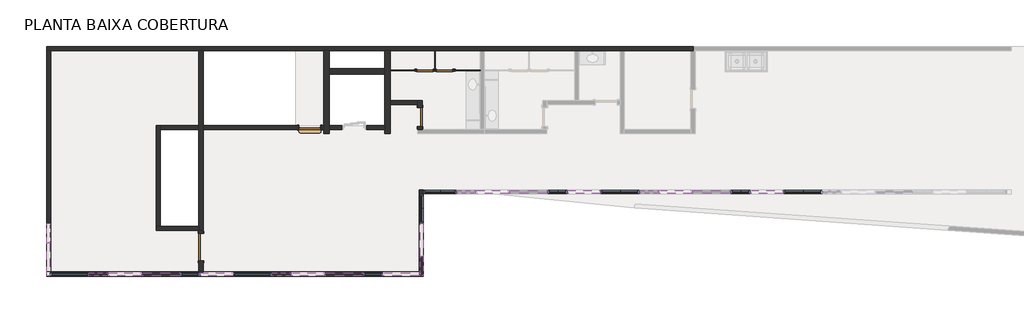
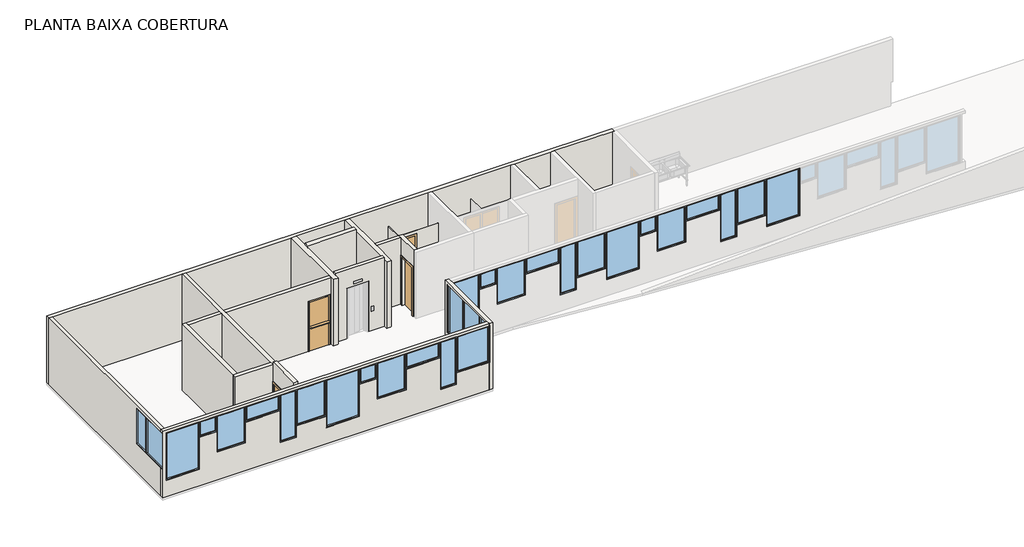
# One storey, part 1 of 3: 30 windows, 18 walls, 5 doors.
"""IFC4 building model written with IfcOpenShell, lengths in millimetres."""

from ifc_helpers import new_model, si_unit, frame, origin, place, context, project, spatial, polyline, outline, extrude, faceted_brep, transform, mapped, element, save
from components import door_1000_x_2100_mm_77822ca1, door_700_x_2100_mm_1d7fae46, door_80_x_210_cm_e9c14bc5, porta_de_banheiro_c374852d, porta_de_banheiro_1c1a7de0, aluminum_exterior_window_2_wide_3886_0_70_x_0_70m_bfecb7e2, aluminum_exterior_window_2_wide_3886_0_70_x_1_60m_6a6ee500, aluminum_exterior_window_2_wide_3886_0_70_x_2_10m_7c316bb6, aluminum_exterior_window_2_wide_3886_1_06_x_2_10m_65eb9463, aluminum_exterior_window_2_wide_3886_1_20_x_1_60m_92f5631a, aluminum_exterior_window_2_wide_3886_1_20_x_2_10m_6cf60a3e, aluminum_exterior_window_2_wide_3886_1_35_x_1_60m_f8f21254, aluminum_exterior_window_2_wide_3886_1_40_x_0_70m_1044a296, aluminum_exterior_window_2_wide_3886_1_40_x_2_10_m_fd60d73d

model = new_model("IFC4")

# Units and contexts
model_context = context("Model", 3, world=origin())
ifc_project = project(units=[si_unit("LENGTHUNIT", "METRE", prefix="MILLI")], contexts=[model_context])

# Site, building, storey
site = spatial("IfcSite", under=ifc_project)
building = spatial("IfcBuilding", under=site)
storey = spatial("IfcBuildingStorey", under=building, Name="PLANTA BAIXA COBERTURA", Elevation=7200.0)

# Doors
placement = place(None, origin())
door_1000_x_2100_mm_shape = door_1000_x_2100_mm_77822ca1(model_context)
element("IfcDoor", 1, ObjectType="M_Folha única : 1000 x 2100 mm", at=placement, inside=storey, context=model_context, shape_type="MappedRepresentation", body=[
    mapped(door_1000_x_2100_mm_shape, transform((-8979.6326345, -9991.1116245, 7200.0), x_axis=(0.0, 1.0, 0.0), y_axis=(-1.0, 0.0, 0.0), z_axis=(0.0, 0.0, 1.0))),
])
door_700_x_2100_mm_shape = door_700_x_2100_mm_1d7fae46(model_context)
element("IfcDoor", 2, ObjectType="M_Folha única : 700 x 2100 mm", at=placement, inside=storey, context=model_context, shape_type="MappedRepresentation", body=[
    mapped(door_700_x_2100_mm_shape, transform((-1079.6326345, -5291.1116245, 7200.0), x_axis=(0.0, -1.0, 0.0), y_axis=(1.0, 0.0, 0.0), z_axis=(0.0, 0.0, 1.0))),
])
door_80_x_210_cm_shape = door_80_x_210_cm_e9c14bc5(model_context)
element("IfcDoor", 3, ObjectType="Dutch_door_-_2_stacked_leaves_2298 : 80 x 210 cm", at=placement, inside=storey, context=model_context, shape_type="MappedRepresentation", body=[
    mapped(door_80_x_210_cm_shape, transform((-5054.6326345, -5666.1116245, 7200.0), x_axis=(1.0, 0.0, 0.0), y_axis=(0.0, 1.0, 0.0), z_axis=(0.0, 0.0, 1.0))),
])
porta_de_banheiro_shape = porta_de_banheiro_c374852d(model_context)
element("IfcDoor", 4, ObjectType="M_Folha única : Porta de Banheiro", at=placement, inside=storey, context=model_context, shape_type="MappedRepresentation", body=[
    mapped(porta_de_banheiro_shape, transform((-894.6326345, -3603.6116245, 7200.0), x_axis=(1.0, 0.0, 0.0), y_axis=(0.0, 1.0, 0.0), z_axis=(0.0, 0.0, 1.0))),
])
porta_de_banheiro_2_shape = porta_de_banheiro_1c1a7de0(model_context)
element("IfcDoor", 5, ObjectType="M_Folha única : Porta de Banheiro", at=placement, inside=storey, context=model_context, shape_type="MappedRepresentation", body=[
    mapped(porta_de_banheiro_2_shape, transform((-189.6326345, -3603.6116245, 7200.0), x_axis=(-1.0, 0.0, 0.0), y_axis=(0.0, -1.0, 0.0), z_axis=(0.0, 0.0, 1.0))),
])

# Walls
element("IfcWall", 6, ObjectType="Genérica - 15cm", at=placement, inside=storey, context=model_context, shape_type="Brep", body=[
    faceted_brep([(-14554.6326345, -2891.1116245, 7200.0), (-14404.6326345, -2891.1116245, 7200.0), (-9054.6326345, -2891.1116245, 7200.0), (-8904.6326345, -2891.1116245, 7200.0), (-4554.6326345, -2891.1116245, 7200.0), (-4354.6326345, -2891.1116245, 7200.0), (-2354.6326345, -2891.1116245, 7200.0), (-2154.6326345, -2891.1116245, 7200.0), (1095.3673655, -2891.1116245, 7200.0), (1245.3673655, -2891.1116245, 7200.0), (4495.3673655, -2891.1116245, 7200.0), (4645.3673655, -2891.1116245, 7200.0), (6145.3673655, -2891.1116245, 7200.0), (6295.3673655, -2891.1116245, 7200.0), (8695.3673655, -2891.1116245, 7200.0), (8770.3673655, -2891.1116245, 7200.0), (8770.3673655, -2891.1116245, 10100.0), (8695.3673655, -2891.1116245, 10100.0), (6295.3673655, -2891.1116245, 10100.0), (6145.3673655, -2891.1116245, 10100.0), (4645.3673655, -2891.1116245, 10100.0), (4495.3673655, -2891.1116245, 10100.0), (1245.3673655, -2891.1116245, 10100.0), (1095.3673655, -2891.1116245, 10100.0), (-2154.6326345, -2891.1116245, 10100.0), (-2354.6326345, -2891.1116245, 10100.0), (-4354.6326345, -2891.1116245, 10100.0), (-4554.6326345, -2891.1116245, 10100.0), (-8904.6326345, -2891.1116245, 10100.0), (-9054.6326345, -2891.1116245, 10100.0), (-14404.6326345, -2891.1116245, 10100.0), (-14554.6326345, -2891.1116245, 10100.0), (-14554.6326345, -2741.1116245, 7200.0), (-14554.6326345, -2741.1116245, 10100.0), (8770.3673655, -2741.1116245, 10100.0), (8770.3673655, -2741.1116245, 7200.0)], [[[0, 1, 2, 3, 4, 5, 6, 7, 8, 9, 10, 11, 12, 13, 14, 15, 16, 17, 18, 19, 20, 21, 22, 23, 24, 25, 26, 27, 28, 29, 30, 31]], [[32, 33, 34, 35]], [[15, 14, 13, 12, 11, 10, 9, 8, 7, 6, 5, 4, 3, 2, 1, 0, 32, 35]], [[16, 15, 35, 34]], [[0, 31, 33, 32]], [[31, 30, 29, 28, 27, 26, 25, 24, 23, 22, 21, 20, 19, 18, 17, 16, 34, 33]]]),
])
element("IfcWall", 7, ObjectType="Genérica - 15cm", at=placement, inside=storey, context=model_context, shape_type="Brep", body=[
    faceted_brep([(-1104.6326345, -7921.1116245, 7200.0), (-1104.6326345, -10891.1116245, 7200.0), (-1104.6326345, -11041.1116245, 7200.0), (-1104.6326345, -11041.1116245, 8400.0), (-1104.6326345, -10891.1116245, 8400.0), (-1104.6326345, -10891.1116245, 9300.0), (-1104.6326345, -10331.1116245, 9300.0), (-1104.6326345, -10331.1116245, 8400.0), (-1104.6326345, -9131.1116245, 8400.0), (-1104.6326345, -9131.1116245, 7900.0), (-1104.6326345, -8071.1116245, 7900.0), (-1104.6326345, -8071.1116245, 10000.0), (-1104.6326345, -10891.1116245, 10000.0), (-1104.6326345, -11041.1116245, 10000.0), (-1104.6326345, -11041.1116245, 10100.0), (-1104.6326345, -10891.1116245, 10100.0), (-1104.6326345, -7921.1116245, 10100.0), (-954.6326345, -11041.1116245, 7200.0), (-954.6326345, -8071.1116245, 7200.0), (-954.6326345, -7921.1116245, 7200.0), (-954.6326345, -7921.1116245, 7900.0), (-954.6326345, -8071.1116245, 7900.0), (-954.6326345, -9131.1116245, 7900.0), (-954.6326345, -9131.1116245, 8400.0), (-954.6326345, -10331.1116245, 8400.0), (-954.6326345, -10331.1116245, 9300.0), (-954.6326345, -11031.1116245, 9300.0), (-954.6326345, -11031.1116245, 10000.0), (-954.6326345, -8071.1116245, 10000.0), (-954.6326345, -7921.1116245, 10000.0), (-954.6326345, -7921.1116245, 10100.0), (-954.6326345, -8071.1116245, 10100.0), (-954.6326345, -11041.1116245, 10100.0), (-1074.6326345, -11041.1116245, 10000.0), (-1074.6326345, -11041.1116245, 8400.0), (-964.9326345, -7921.1116245, 10000.0), (-964.9326345, -7921.1116245, 7900.0), (-1074.6326345, -10891.1116245, 9300.0), (-1074.6326345, -11031.1116245, 9300.0), (-1074.6326345, -11031.1116245, 10000.0), (-964.9326345, -8071.1116245, 10000.0), (-964.9326345, -8071.1116245, 7900.0), (-1074.6326345, -10891.1116245, 8400.0)], [[[0, 1, 2, 3, 4, 5, 6, 7, 8, 9, 10, 11, 12, 13, 14, 15, 16]], [[17, 18, 19, 20, 21, 22, 23, 24, 25, 26, 27, 28, 29, 30, 31, 32]], [[2, 1, 0, 19, 18, 17]], [[2, 17, 32, 14, 13, 33, 34, 3]], [[0, 16, 30, 29, 35, 36, 20, 19]], [[16, 15, 14, 32, 31, 30]], [[26, 25, 6, 5, 37, 38]], [[27, 26, 38, 39]], [[27, 39, 33, 13, 12, 11, 40, 35, 29, 28]], [[7, 24, 23, 8]], [[24, 7, 6, 25]], [[11, 10, 41, 40]], [[9, 22, 21, 20, 36, 41, 10]], [[22, 9, 8, 23]], [[4, 42, 37, 5]], [[42, 34, 33, 39, 38, 37]], [[34, 42, 4, 3]], [[41, 36, 35, 40]]]),
])
element("IfcWall", 8, ObjectType="Genérica - 15cm", at=placement, inside=storey, context=model_context, shape_type="Brep", body=[
    faceted_brep([(-1104.6326345, -10891.1116245, 7200.0), (-14404.6326345, -10891.1116245, 7200.0), (-14554.6326345, -10891.1116245, 7200.0), (-14554.6326345, -10891.1116245, 8400.0), (-14424.6326345, -10891.1116245, 8400.0), (-14424.6326345, -10891.1116245, 7900.0), (-13024.6326345, -10891.1116245, 7900.0), (-13024.6326345, -10891.1116245, 9300.0), (-12324.6326345, -10891.1116245, 9300.0), (-12324.6326345, -10891.1116245, 8400.0), (-11124.6326345, -10891.1116245, 8400.0), (-11124.6326345, -10891.1116245, 9300.0), (-9724.6326345, -10891.1116245, 9300.0), (-9724.6326345, -10891.1116245, 7900.0), (-9024.6326345, -10891.1116245, 7900.0), (-9024.6326345, -10891.1116245, 8400.0), (-7824.6326345, -10891.1116245, 8400.0), (-7824.6326345, -10891.1116245, 7900.0), (-6424.6326345, -10891.1116245, 7900.0), (-6424.6326345, -10891.1116245, 9300.0), (-5724.6326345, -10891.1116245, 9300.0), (-5724.6326345, -10891.1116245, 8400.0), (-4524.6326345, -10891.1116245, 8400.0), (-4524.6326345, -10891.1116245, 9300.0), (-3124.6326345, -10891.1116245, 9300.0), (-3124.6326345, -10891.1116245, 7900.0), (-2424.6326345, -10891.1116245, 7900.0), (-2424.6326345, -10891.1116245, 8400.0), (-1104.6326345, -10891.1116245, 8400.0), (-14554.6326345, -10891.1116245, 10100.0), (-14404.6326345, -10891.1116245, 10100.0), (-1104.6326345, -10891.1116245, 10100.0), (-1104.6326345, -10891.1116245, 10000.0), (-14404.6326345, -10891.1116245, 10000.0), (-14554.6326345, -10891.1116245, 10000.0), (-14554.6326345, -11041.1116245, 7200.0), (-1104.6326345, -11041.1116245, 7200.0), (-1104.6326345, -11041.1116245, 8400.0), (-2424.6326345, -11041.1116245, 8400.0), (-2424.6326345, -11041.1116245, 7900.0), (-3124.6326345, -11041.1116245, 7900.0), (-3124.6326345, -11041.1116245, 9300.0), (-4524.6326345, -11041.1116245, 9300.0), (-4524.6326345, -11041.1116245, 8400.0), (-5724.6326345, -11041.1116245, 8400.0), (-5724.6326345, -11041.1116245, 9300.0), (-6424.6326345, -11041.1116245, 9300.0), (-6424.6326345, -11041.1116245, 7900.0), (-7824.6326345, -11041.1116245, 7900.0), (-7824.6326345, -11041.1116245, 8400.0), (-9024.6326345, -11041.1116245, 8400.0), (-9024.6326345, -11041.1116245, 7900.0), (-9724.6326345, -11041.1116245, 7900.0), (-9724.6326345, -11041.1116245, 9300.0), (-11124.6326345, -11041.1116245, 9300.0), (-11124.6326345, -11041.1116245, 8400.0), (-12324.6326345, -11041.1116245, 8400.0), (-12324.6326345, -11041.1116245, 9300.0), (-13024.6326345, -11041.1116245, 9300.0), (-13024.6326345, -11041.1116245, 7900.0), (-14424.6326345, -11041.1116245, 7900.0), (-14424.6326345, -11041.1116245, 10000.0), (-1104.6326345, -11041.1116245, 10000.0), (-1104.6326345, -11041.1116245, 10100.0), (-14554.6326345, -11041.1116245, 10100.0), (-14554.6326345, -11031.1116245, 10000.0), (-14554.6326345, -11031.1116245, 8400.0), (-14424.6326345, -11031.1116245, 10000.0), (-14424.6326345, -11031.1116245, 8400.0)], [[[0, 1, 2, 3, 4, 5, 6, 7, 8, 9, 10, 11, 12, 13, 14, 15, 16, 17, 18, 19, 20, 21, 22, 23, 24, 25, 26, 27, 28]], [[29, 30, 31, 32, 33, 34]], [[35, 36, 37, 38, 39, 40, 41, 42, 43, 44, 45, 46, 47, 48, 49, 50, 51, 52, 53, 54, 55, 56, 57, 58, 59, 60, 61, 62, 63, 64]], [[2, 1, 0, 36, 35]], [[36, 0, 28, 37]], [[31, 63, 62, 32]], [[2, 35, 64, 29, 34, 65, 66, 3]], [[31, 30, 29, 64, 63]], [[66, 65, 67, 68]], [[3, 66, 68, 4]], [[65, 34, 33, 32, 62, 61, 67]], [[6, 59, 58, 7]], [[59, 6, 5, 60]], [[60, 5, 4, 68, 67, 61]], [[8, 7, 58, 57]], [[10, 55, 54, 11]], [[55, 10, 9, 56]], [[56, 9, 8, 57]], [[12, 11, 54, 53]], [[14, 51, 50, 15]], [[13, 52, 51, 14]], [[52, 13, 12, 53]], [[16, 15, 50, 49]], [[18, 47, 46, 19]], [[47, 18, 17, 48]], [[48, 17, 16, 49]], [[22, 43, 42, 23]], [[43, 22, 21, 44]], [[44, 21, 20, 45]], [[24, 23, 42, 41]], [[26, 39, 38, 27]], [[39, 26, 25, 40]], [[40, 25, 24, 41]], [[28, 27, 38, 37]], [[20, 19, 46, 45]]]),
])
element("IfcWall", 9, ObjectType="Genérica - 15cm", at=placement, inside=storey, context=model_context, shape_type="Brep", body=[
    faceted_brep([(-14404.6326345, -10891.1116245, 7200.0), (-14404.6326345, -2891.1116245, 7200.0), (-14404.6326345, -2891.1116245, 10100.0), (-14404.6326345, -10891.1116245, 10100.0), (-14404.6326345, -10891.1116245, 10000.0), (-14404.6326345, -9131.1116245, 10000.0), (-14404.6326345, -9131.1116245, 8400.0), (-14404.6326345, -10891.1116245, 8400.0), (-14554.6326345, -2891.1116245, 7200.0), (-14554.6326345, -10891.1116245, 7200.0), (-14554.6326345, -10891.1116245, 8400.0), (-14554.6326345, -9131.1116245, 8400.0), (-14554.6326345, -9131.1116245, 10000.0), (-14554.6326345, -10891.1116245, 10000.0), (-14554.6326345, -10891.1116245, 10100.0), (-14554.6326345, -2891.1116245, 10100.0), (-14424.6326345, -10891.1116245, 8400.0)], [[[0, 1, 2, 3, 4, 5, 6, 7]], [[8, 9, 10, 11, 12, 13, 14, 15]], [[1, 0, 9, 8]], [[9, 0, 7, 16, 10]], [[3, 14, 13, 4]], [[2, 1, 8, 15]], [[3, 2, 15, 14]], [[6, 11, 10, 16, 7]], [[4, 13, 12, 5]], [[11, 6, 5, 12]]]),
])
element("IfcWall", 10, ObjectType="Genérica - 15cm", at=placement, inside=storey, context=model_context, shape_type="Brep", body=[
    faceted_brep([(-9054.6326345, -2891.1116245, 7200.0), (-9054.6326345, -5591.1116245, 7200.0), (-9054.6326345, -5741.1116245, 7200.0), (-9054.6326345, -9241.1116245, 7200.0), (-9054.6326345, -9391.1116245, 7200.0), (-9054.6326345, -9391.1116245, 10100.0), (-9054.6326345, -9241.1116245, 10100.0), (-9054.6326345, -6875.3974084, 10100.0), (-9054.6326345, -5741.1116245, 10100.0), (-9054.6326345, -5591.1116245, 10100.0), (-9054.6326345, -2891.1116245, 10100.0), (-8904.6326345, -2891.1116245, 7200.0), (-8904.6326345, -2891.1116245, 10100.0), (-8904.6326345, -5591.1116245, 10100.0), (-8904.6326345, -5741.1116245, 10100.0), (-8904.6326345, -9391.1116245, 10100.0), (-8904.6326345, -9391.1116245, 7200.0), (-8904.6326345, -5741.1116245, 7200.0), (-8904.6326345, -5591.1116245, 7200.0)], [[[0, 1, 2, 3, 4, 5, 6, 7, 8, 9, 10]], [[11, 12, 13, 14, 15, 16, 17, 18]], [[4, 3, 2, 1, 0, 11, 18, 17, 16]], [[5, 4, 16, 15]], [[0, 10, 12, 11]], [[10, 9, 8, 7, 6, 5, 15, 14, 13, 12]]]),
])
element("IfcWall", 11, ObjectType="Genérica - 15cm", at=placement, inside=storey, context=model_context, shape_type="Brep", body=[
    faceted_brep([(-9054.6326345, -9241.1116245, 7200.0), (-10454.6326345, -9241.1116245, 7200.0), (-10604.6326345, -9241.1116245, 7200.0), (-10604.6326345, -9241.1116245, 10100.0), (-10454.6326345, -9241.1116245, 10100.0), (-9054.6326345, -9241.1116245, 10100.0), (-9054.6326345, -9391.1116245, 7200.0), (-9054.6326345, -9391.1116245, 10100.0), (-10604.6326345, -9391.1116245, 10100.0), (-10604.6326345, -9391.1116245, 7200.0)], [[[0, 1, 2, 3, 4, 5]], [[6, 7, 8, 9]], [[2, 1, 0, 6, 9]], [[0, 5, 7, 6]], [[3, 2, 9, 8]], [[5, 4, 3, 8, 7]]]),
])
element("IfcWall", 12, ObjectType="Genérica - 15cm", at=placement, inside=storey, context=model_context, shape_type="Brep", body=[
    faceted_brep([(-10454.6326345, -9241.1116245, 7200.0), (-10454.6326345, -5741.1116245, 7200.0), (-10454.6326345, -5591.1116245, 7200.0), (-10454.6326345, -5591.1116245, 10100.0), (-10454.6326345, -5741.1116245, 10100.0), (-10454.6326345, -9241.1116245, 10100.0), (-10604.6326345, -9241.1116245, 7200.0), (-10604.6326345, -9241.1116245, 10100.0), (-10604.6326345, -5591.1116245, 10100.0), (-10604.6326345, -5591.1116245, 7200.0)], [[[0, 1, 2, 3, 4, 5]], [[6, 7, 8, 9]], [[2, 1, 0, 6, 9]], [[0, 5, 7, 6]], [[3, 2, 9, 8]], [[5, 4, 3, 8, 7]]]),
])
element("IfcWall", 13, ObjectType="Genérica - 15cm", at=placement, inside=storey, context=model_context, shape_type="SweptSolid", body=[
    extrude(outline(polyline([(-9054.6326345, -5741.1116245), (-10454.6326345, -5741.1116245), (-10454.6326345, -5591.1116245), (-9054.6326345, -5591.1116245), (-9054.6326345, -5741.1116245)])), frame((0.0, 0.0, 7200.0), z_axis=(0.0, 0.0, 1.0), x_axis=(1.0, 0.0, 0.0)), (0.0, 0.0, 1.0), 2900.0),
])
element("IfcWall", 14, ObjectType="Genérica - 15cm", at=placement, inside=storey, context=model_context, shape_type="SweptSolid", body=[
    extrude(outline(polyline([(9359.0, -4629.2326345), (7200.0, -4629.2326345), (7200.0, -4554.6326345), (10100.0, -4554.6326345), (10100.0, -8904.6326345), (7200.0, -8904.6326345), (7200.0, -5480.0326345), (9359.0, -5480.0326345), (9359.0, -4629.2326345)])), frame((0.0, -5741.1116245, 0.0), z_axis=(0.0, 1.0, 0.0), x_axis=(0.0, 0.0, 1.0)), (0.0, 0.0, 1.0), 150.0),
])
element("IfcWall", 15, ObjectType="Genérica - 20cm", at=placement, inside=storey, context=model_context, shape_type="Brep", body=[
    faceted_brep([(-4554.6326345, -2891.1116245, 7200.0), (-4554.6326345, -5591.1116245, 7200.0), (-4554.6326345, -5741.1116245, 7200.0), (-4554.6326345, -5891.1116245, 7200.0), (-4554.6326345, -5891.1116245, 10100.0), (-4554.6326345, -5741.1116245, 10100.0), (-4554.6326345, -5591.1116245, 10100.0), (-4554.6326345, -2891.1116245, 10100.0), (-4354.6326345, -2891.1116245, 7200.0), (-4354.6326345, -2891.1116245, 10100.0), (-4354.6326345, -5691.1116245, 10100.0), (-4354.6326345, -5891.1116245, 10100.0), (-4354.6326345, -5891.1116245, 7200.0), (-4354.6326345, -5741.1116245, 7200.0), (-4354.6326345, -5591.1116245, 7200.0), (-4354.6326345, -3741.1116245, 7200.0), (-4354.6326345, -3541.1116245, 7200.0)], [[[0, 1, 2, 3, 4, 5, 6, 7]], [[8, 9, 10, 11, 12, 13, 14, 15, 16]], [[3, 2, 1, 0, 8, 16, 15, 14, 13, 12]], [[4, 3, 12, 11]], [[0, 7, 9, 8]], [[7, 6, 5, 4, 11, 10, 9]]]),
])
element("IfcWall", 16, ObjectType="Genérica - 20cm", at=placement, inside=storey, context=model_context, shape_type="Brep", body=[
    faceted_brep([(-2354.6326345, -2891.1116245, 7200.0), (-2354.6326345, -3541.1116245, 7200.0), (-2354.6326345, -3741.1116245, 7200.0), (-2354.6326345, -5591.1116245, 7200.0), (-2354.6326345, -5741.1116245, 7200.0), (-2354.6326345, -5891.1116245, 7200.0), (-2354.6326345, -5891.1116245, 10100.0), (-2354.6326345, -5691.1116245, 10100.0), (-2354.6326345, -2891.1116245, 10100.0), (-2154.6326345, -2891.1116245, 7200.0), (-2154.6326345, -2891.1116245, 10100.0), (-2154.6326345, -4691.1116245, 10100.0), (-2154.6326345, -4841.1116245, 10100.0), (-2154.6326345, -5891.1116245, 10100.0), (-2154.6326345, -5891.1116245, 7200.0), (-2154.6326345, -4841.1116245, 7200.0), (-2154.6326345, -4691.1116245, 7200.0)], [[[0, 1, 2, 3, 4, 5, 6, 7, 8]], [[9, 10, 11, 12, 13, 14, 15, 16]], [[5, 4, 3, 2, 1, 0, 9, 16, 15, 14]], [[6, 5, 14, 13]], [[0, 8, 10, 9]], [[8, 7, 6, 13, 12, 11, 10]]]),
])
element("IfcWall", 17, ObjectType="Genérica - 20cm", at=placement, inside=storey, context=model_context, shape_type="SweptSolid", body=[
    extrude(outline(polyline([(-2354.6326345, -3741.1116245), (-4354.6326345, -3741.1116245), (-4354.6326345, -3541.1116245), (-2354.6326345, -3541.1116245), (-2354.6326345, -3741.1116245)])), frame((0.0, 0.0, 7200.0), z_axis=(0.0, 0.0, 1.0), x_axis=(1.0, 0.0, 0.0)), (0.0, 0.0, 1.0), 3000.0),
])
element("IfcWall", 18, ObjectType="Genérica - 15cm", at=placement, inside=storey, context=model_context, shape_type="Brep", body=[
    faceted_brep([(-1004.6326345, -5741.1116245, 7200.0), (-1004.6326345, -5641.1116245, 7200.0), (-1004.6326345, -5641.1116245, 9300.0), (-1004.6326345, -4941.1116245, 9300.0), (-1004.6326345, -4941.1116245, 7200.0), (-1004.6326345, -4691.1116245, 7200.0), (-1004.6326345, -4691.1116245, 10100.0), (-1004.6326345, -5741.1116245, 10100.0), (-1154.6326345, -5641.1116245, 9300.0), (-1154.6326345, -5641.1116245, 7200.0), (-1154.6326345, -5741.1116245, 7200.0), (-1154.6326345, -5741.1116245, 10100.0), (-1154.6326345, -4841.1116245, 10100.0), (-1154.6326345, -4691.1116245, 10100.0), (-1154.6326345, -4691.1116245, 7200.0), (-1154.6326345, -4841.1116245, 7200.0), (-1154.6326345, -4941.1116245, 7200.0), (-1154.6326345, -4941.1116245, 9300.0)], [[[0, 1, 2, 3, 4, 5, 6, 7]], [[8, 9, 10, 11, 12, 13, 14, 15, 16, 17]], [[10, 9, 1, 0]], [[16, 15, 14, 5, 4]], [[0, 7, 11, 10]], [[6, 5, 14, 13]], [[7, 6, 13, 12, 11]], [[2, 1, 9, 8]], [[3, 2, 8, 17]], [[4, 3, 17, 16]]]),
])
element("IfcWall", 19, ObjectType="Genérica - 15cm", at=placement, inside=storey, context=model_context, shape_type="SweptSolid", body=[
    extrude(outline(polyline([(-2154.6326345, -4691.1116245), (-1154.6326345, -4691.1116245), (-1154.6326345, -4841.1116245), (-2154.6326345, -4841.1116245), (-2154.6326345, -4691.1116245)])), frame((0.0, 0.0, 7200.0), z_axis=(0.0, 0.0, 1.0), x_axis=(1.0, 0.0, 0.0)), (0.0, 0.0, 1.0), 2900.0),
])
element("IfcWall", 20, ObjectType="Genérica - 15cm", at=placement, inside=storey, context=model_context, shape_type="Brep", body=[
    faceted_brep([(-9054.6326345, -9391.1116245, 7200.0), (-9054.6326345, -9491.1116245, 7200.0), (-9054.6326345, -9491.1116245, 9300.0), (-9054.6326345, -10491.1116245, 9300.0), (-9054.6326345, -10491.1116245, 7200.0), (-9054.6326345, -10881.1116245, 7200.0), (-9054.6326345, -10881.1116245, 10200.0), (-9054.6326345, -9391.1116245, 10200.0), (-9054.6326345, -9391.1116245, 10100.0), (-8904.6326345, -9491.1116245, 9300.0), (-8904.6326345, -9491.1116245, 7200.0), (-8904.6326345, -9391.1116245, 7200.0), (-8904.6326345, -9391.1116245, 10100.0), (-8904.6326345, -9391.1116245, 10200.0), (-8904.6326345, -10881.1116245, 10200.0), (-8904.6326345, -10881.1116245, 7200.0), (-8904.6326345, -10491.1116245, 7200.0), (-8904.6326345, -10491.1116245, 9300.0)], [[[0, 1, 2, 3, 4, 5, 6, 7, 8]], [[9, 10, 11, 12, 13, 14, 15, 16, 17]], [[16, 15, 5, 4]], [[11, 10, 1, 0]], [[6, 5, 15, 14]], [[7, 6, 14, 13]], [[0, 8, 7, 13, 12, 11]], [[2, 1, 10, 9]], [[3, 2, 9, 17]], [[4, 3, 17, 16]]]),
])
element("IfcWall", 21, ObjectType="Genérica - 15cm", at=placement, inside=storey, context=model_context, shape_type="SweptSolid", body=[
    extrude(outline(polyline([(10200.0, -2354.6326345), (10200.0, -4354.6326345), (7200.0, -4354.6326345), (7200.0, -3904.6326345), (9400.0, -3904.6326345), (9400.0, -3004.6326345), (7200.0, -3004.6326345), (7200.0, -2354.6326345), (10200.0, -2354.6326345)])), frame((0.0, -5741.1116245, 0.0), z_axis=(0.0, 1.0, 0.0), x_axis=(0.0, 0.0, 1.0)), (0.0, 0.0, 1.0), 150.0),
])
element("IfcWall", 22, ObjectType="Divisória Banheiros", at=placement, inside=storey, context=model_context, shape_type="Brep", body=[
    faceted_brep([(1095.3673655, -3616.1116245, 9200.0), (-2154.6326345, -3616.1116245, 9200.0), (-2154.6326345, -3616.1116245, 7400.0), (-1194.6326345, -3616.1116245, 7400.0), (-1194.6326345, -3616.1116245, 9000.0), (-594.6326345, -3616.1116245, 9000.0), (-594.6326345, -3616.1116245, 7400.0), (-489.6326345, -3616.1116245, 7400.0), (-489.6326345, -3616.1116245, 9000.0), (110.3673655, -3616.1116245, 9000.0), (110.3673655, -3616.1116245, 7400.0), (1095.3673655, -3616.1116245, 7400.0), (-2154.6326345, -3591.1116245, 9200.0), (-554.6326345, -3591.1116245, 9200.0), (-529.6326345, -3591.1116245, 9200.0), (1095.3673655, -3591.1116245, 9200.0), (1095.3673655, -3591.1116245, 7400.0), (110.3673655, -3591.1116245, 7400.0), (110.3673655, -3591.1116245, 9000.0), (-489.6326345, -3591.1116245, 9000.0), (-489.6326345, -3591.1116245, 7400.0), (-529.6326345, -3591.1116245, 7400.0), (-554.6326345, -3591.1116245, 7400.0), (-594.6326345, -3591.1116245, 7400.0), (-594.6326345, -3591.1116245, 9000.0), (-1194.6326345, -3591.1116245, 9000.0), (-1194.6326345, -3591.1116245, 7400.0), (-2154.6326345, -3591.1116245, 7400.0)], [[[0, 1, 2, 3, 4, 5, 6, 7, 8, 9, 10, 11]], [[12, 13, 14, 15, 16, 17, 18, 19, 20, 21, 22, 23, 24, 25, 26, 27]], [[2, 27, 26, 3]], [[16, 11, 10, 17]], [[6, 23, 22, 21, 20, 7]], [[1, 0, 15, 14, 13, 12]], [[2, 1, 12, 27]], [[0, 11, 16, 15]], [[5, 24, 23, 6]], [[24, 5, 4, 25]], [[25, 4, 3, 26]], [[19, 8, 7, 20]], [[8, 19, 18, 9]], [[9, 18, 17, 10]]]),
])
element("IfcWall", 23, ObjectType="Divisória Banheiros", at=placement, inside=storey, context=model_context, shape_type="SweptSolid", body=[
    extrude(outline(polyline([(-529.6326345, -2891.1116245), (-529.6326345, -3591.1116245), (-554.6326345, -3591.1116245), (-554.6326345, -2891.1116245), (-529.6326345, -2891.1116245)])), frame((0.0, 0.0, 7400.0), z_axis=(0.0, 0.0, 1.0), x_axis=(1.0, 0.0, 0.0)), (0.0, 0.0, 1.0), 1800.0),
])

# Windows
aluminum_exterior_window_2_wide_3886_0_70_x_0_70m_shape = aluminum_exterior_window_2_wide_3886_0_70_x_0_70m_bfecb7e2(model_context)
element("IfcWindow", 24, ObjectType="Aluminum_Exterior_Window_-_2_Wide_3886 : 0,70 x 0,70m", at=placement, inside=storey, context=model_context, shape_type="MappedRepresentation", body=[
    mapped(aluminum_exterior_window_2_wide_3886_0_70_x_0_70m_shape, transform((-11653.0326345, -10992.6691491, 8284.0), x_axis=(1.0, 0.0, 0.0), y_axis=(0.0, 1.0, 0.0), z_axis=(0.0, 0.0, 1.0))),
])
element("IfcWindow", 25, ObjectType="Aluminum_Exterior_Window_-_2_Wide_3886 : 0,70 x 0,70m", at=placement, inside=storey, context=model_context, shape_type="MappedRepresentation", body=[
    mapped(aluminum_exterior_window_2_wide_3886_0_70_x_0_70m_shape, transform((-5053.0326345, -10992.6691491, 8284.0), x_axis=(1.0, 0.0, 0.0), y_axis=(0.0, 1.0, 0.0), z_axis=(0.0, 0.0, 1.0))),
])
element("IfcWindow", 26, ObjectType="Aluminum_Exterior_Window_-_2_Wide_3886 : 0,70 x 0,70m", at=placement, inside=storey, context=model_context, shape_type="MappedRepresentation", body=[
    mapped(aluminum_exterior_window_2_wide_3886_0_70_x_0_70m_shape, transform((-1003.0751098, -9659.5116245, 8284.0), x_axis=(0.0, 1.0, 0.0), y_axis=(-1.0, 0.0, 0.0), z_axis=(0.0, 0.0, 1.0))),
])
element("IfcWindow", 27, ObjectType="Aluminum_Exterior_Window_-_2_Wide_3886 : 0,70 x 0,70m", at=placement, inside=storey, context=model_context, shape_type="MappedRepresentation", body=[
    mapped(aluminum_exterior_window_2_wide_3886_0_70_x_0_70m_shape, transform((1606.6673655, -8022.6691491, 8284.0), x_axis=(1.0, 0.0, 0.0), y_axis=(0.0, 1.0, 0.0), z_axis=(0.0, 0.0, 1.0))),
])
element("IfcWindow", 28, ObjectType="Aluminum_Exterior_Window_-_2_Wide_3886 : 0,70 x 0,70m", at=placement, inside=storey, context=model_context, shape_type="MappedRepresentation", body=[
    mapped(aluminum_exterior_window_2_wide_3886_0_70_x_0_70m_shape, transform((8206.6673655, -8022.6691491, 8284.0), x_axis=(1.0, 0.0, 0.0), y_axis=(0.0, 1.0, 0.0), z_axis=(0.0, 0.0, 1.0))),
])
aluminum_exterior_window_2_wide_3886_0_70_x_1_60m_shape = aluminum_exterior_window_2_wide_3886_0_70_x_1_60m_6a6ee500(model_context)
element("IfcWindow", 29, ObjectType="Aluminum_Exterior_Window_-_2_Wide_3886 : 0,70 x 1,60m", at=placement, inside=storey, context=model_context, shape_type="MappedRepresentation", body=[
    mapped(aluminum_exterior_window_2_wide_3886_0_70_x_1_60m_shape, transform((-14506.1901591, -10502.7116245, 7384.0), x_axis=(0.0, -1.0, 0.0), y_axis=(1.0, 0.0, 0.0), z_axis=(0.0, 0.0, 1.0))),
])
aluminum_exterior_window_2_wide_3886_0_70_x_2_10m_shape = aluminum_exterior_window_2_wide_3886_0_70_x_2_10m_7c316bb6(model_context)
element("IfcWindow", 30, ObjectType="Aluminum_Exterior_Window_-_2_Wide_3886 : 0,70 x 2,10m", at=placement, inside=storey, context=model_context, shape_type="MappedRepresentation", body=[
    mapped(aluminum_exterior_window_2_wide_3886_0_70_x_2_10m_shape, transform((-8353.0326345, -10992.6691491, 6840.0), x_axis=(1.0, 0.0, 0.0), y_axis=(0.0, 1.0, 0.0), z_axis=(0.0, 0.0, 1.0))),
])
element("IfcWindow", 31, ObjectType="Aluminum_Exterior_Window_-_2_Wide_3886 : 0,70 x 2,10m", at=placement, inside=storey, context=model_context, shape_type="MappedRepresentation", body=[
    mapped(aluminum_exterior_window_2_wide_3886_0_70_x_2_10m_shape, transform((-1753.0326345, -10992.6691491, 6840.0), x_axis=(1.0, 0.0, 0.0), y_axis=(0.0, 1.0, 0.0), z_axis=(0.0, 0.0, 1.0))),
])
element("IfcWindow", 32, ObjectType="Aluminum_Exterior_Window_-_2_Wide_3886 : 0,70 x 2,10m", at=placement, inside=storey, context=model_context, shape_type="MappedRepresentation", body=[
    mapped(aluminum_exterior_window_2_wide_3886_0_70_x_2_10m_shape, transform((4906.6673655, -8022.6691491, 6840.0), x_axis=(1.0, 0.0, 0.0), y_axis=(0.0, 1.0, 0.0), z_axis=(0.0, 0.0, 1.0))),
])
element("IfcWindow", 33, ObjectType="Aluminum_Exterior_Window_-_2_Wide_3886 : 0,70 x 2,10m", at=placement, inside=storey, context=model_context, shape_type="MappedRepresentation", body=[
    mapped(aluminum_exterior_window_2_wide_3886_0_70_x_2_10m_shape, transform((11506.6673655, -8022.6691491, 6840.0), x_axis=(1.0, 0.0, 0.0), y_axis=(0.0, 1.0, 0.0), z_axis=(0.0, 0.0, 1.0))),
])
aluminum_exterior_window_2_wide_3886_1_06_x_2_10m_shape = aluminum_exterior_window_2_wide_3886_1_06_x_2_10m_65eb9463(model_context)
element("IfcWindow", 34, ObjectType="Aluminum_Exterior_Window_-_2_Wide_3886 : 1,06 x 2,10m", at=placement, inside=storey, context=model_context, shape_type="MappedRepresentation", body=[
    mapped(aluminum_exterior_window_2_wide_3886_1_06_x_2_10m_shape, transform((-1003.0751098, -7759.5116245, 6884.0), x_axis=(0.0, 1.0, 0.0), y_axis=(-1.0, 0.0, 0.0), z_axis=(0.0, 0.0, 1.0))),
])
aluminum_exterior_window_2_wide_3886_1_20_x_1_60m_shape = aluminum_exterior_window_2_wide_3886_1_20_x_1_60m_92f5631a(model_context)
element("IfcWindow", 35, ObjectType="Aluminum_Exterior_Window_-_2_Wide_3886 : 1,20 x 1,60m", at=placement, inside=storey, context=model_context, shape_type="MappedRepresentation", body=[
    mapped(aluminum_exterior_window_2_wide_3886_1_20_x_1_60m_shape, transform((-14506.1901591, -11202.7116245, 7384.0), x_axis=(0.0, -1.0, 0.0), y_axis=(1.0, 0.0, 0.0), z_axis=(0.0, 0.0, 1.0))),
])
element("IfcWindow", 36, ObjectType="Aluminum_Exterior_Window_-_2_Wide_3886 : 1,20 x 1,60m", at=placement, inside=storey, context=model_context, shape_type="MappedRepresentation", body=[
    mapped(aluminum_exterior_window_2_wide_3886_1_20_x_1_60m_shape, transform((-10953.0326345, -10992.6691491, 7384.0), x_axis=(1.0, 0.0, 0.0), y_axis=(0.0, 1.0, 0.0), z_axis=(0.0, 0.0, 1.0))),
])
element("IfcWindow", 37, ObjectType="Aluminum_Exterior_Window_-_2_Wide_3886 : 1,20 x 1,60m", at=placement, inside=storey, context=model_context, shape_type="MappedRepresentation", body=[
    mapped(aluminum_exterior_window_2_wide_3886_1_20_x_1_60m_shape, transform((-7653.0326345, -10992.6691491, 7384.0), x_axis=(1.0, 0.0, 0.0), y_axis=(0.0, 1.0, 0.0), z_axis=(0.0, 0.0, 1.0))),
])
element("IfcWindow", 38, ObjectType="Aluminum_Exterior_Window_-_2_Wide_3886 : 1,20 x 1,60m", at=placement, inside=storey, context=model_context, shape_type="MappedRepresentation", body=[
    mapped(aluminum_exterior_window_2_wide_3886_1_20_x_1_60m_shape, transform((-4353.0326345, -10992.6691491, 7384.0), x_axis=(1.0, 0.0, 0.0), y_axis=(0.0, 1.0, 0.0), z_axis=(0.0, 0.0, 1.0))),
])
element("IfcWindow", 39, ObjectType="Aluminum_Exterior_Window_-_2_Wide_3886 : 1,20 x 1,60m", at=placement, inside=storey, context=model_context, shape_type="MappedRepresentation", body=[
    mapped(aluminum_exterior_window_2_wide_3886_1_20_x_1_60m_shape, transform((-1003.0751098, -8959.5116245, 7384.0), x_axis=(0.0, 1.0, 0.0), y_axis=(-1.0, 0.0, 0.0), z_axis=(0.0, 0.0, 1.0))),
])
element("IfcWindow", 40, ObjectType="Aluminum_Exterior_Window_-_2_Wide_3886 : 1,20 x 1,60m", at=placement, inside=storey, context=model_context, shape_type="MappedRepresentation", body=[
    mapped(aluminum_exterior_window_2_wide_3886_1_20_x_1_60m_shape, transform((2306.6673655, -8022.6691491, 7384.0), x_axis=(1.0, 0.0, 0.0), y_axis=(0.0, 1.0, 0.0), z_axis=(0.0, 0.0, 1.0))),
])
element("IfcWindow", 41, ObjectType="Aluminum_Exterior_Window_-_2_Wide_3886 : 1,20 x 1,60m", at=placement, inside=storey, context=model_context, shape_type="MappedRepresentation", body=[
    mapped(aluminum_exterior_window_2_wide_3886_1_20_x_1_60m_shape, transform((5606.6673655, -8022.6691491, 7384.0), x_axis=(1.0, 0.0, 0.0), y_axis=(0.0, 1.0, 0.0), z_axis=(0.0, 0.0, 1.0))),
])
element("IfcWindow", 42, ObjectType="Aluminum_Exterior_Window_-_2_Wide_3886 : 1,20 x 1,60m", at=placement, inside=storey, context=model_context, shape_type="MappedRepresentation", body=[
    mapped(aluminum_exterior_window_2_wide_3886_1_20_x_1_60m_shape, transform((8906.6673655, -8022.6691491, 7384.0), x_axis=(1.0, 0.0, 0.0), y_axis=(0.0, 1.0, 0.0), z_axis=(0.0, 0.0, 1.0))),
])
element("IfcWindow", 43, ObjectType="Aluminum_Exterior_Window_-_2_Wide_3886 : 1,20 x 1,60m", at=placement, inside=storey, context=model_context, shape_type="MappedRepresentation", body=[
    mapped(aluminum_exterior_window_2_wide_3886_1_20_x_1_60m_shape, transform((12206.6673655, -8022.6691491, 7384.0), x_axis=(1.0, 0.0, 0.0), y_axis=(0.0, 1.0, 0.0), z_axis=(0.0, 0.0, 1.0))),
])
aluminum_exterior_window_2_wide_3886_1_20_x_2_10m_shape = aluminum_exterior_window_2_wide_3886_1_20_x_2_10m_6cf60a3e(model_context)
element("IfcWindow", 44, ObjectType="Aluminum_Exterior_Window_-_2_Wide_3886 : 1,20 x 2,10m", at=placement, inside=storey, context=model_context, shape_type="MappedRepresentation", body=[
    mapped(aluminum_exterior_window_2_wide_3886_1_20_x_2_10m_shape, transform((406.6673655, -8022.6691491, 6884.0), x_axis=(1.0, 0.0, 0.0), y_axis=(0.0, 1.0, 0.0), z_axis=(0.0, 0.0, 1.0))),
])
aluminum_exterior_window_2_wide_3886_1_35_x_1_60m_shape = aluminum_exterior_window_2_wide_3886_1_35_x_1_60m_f8f21254(model_context)
element("IfcWindow", 45, ObjectType="Aluminum_Exterior_Window_-_2_Wide_3886 : 1,35 x 1,60m", at=placement, inside=storey, context=model_context, shape_type="MappedRepresentation", body=[
    mapped(aluminum_exterior_window_2_wide_3886_1_35_x_1_60m_shape, transform((-1053.0326345, -10992.6691491, 7384.0), x_axis=(1.0, 0.0, 0.0), y_axis=(0.0, 1.0, 0.0), z_axis=(0.0, 0.0, 1.0))),
])
aluminum_exterior_window_2_wide_3886_1_40_x_0_70m_shape = aluminum_exterior_window_2_wide_3886_1_40_x_0_70m_1044a296(model_context)
element("IfcWindow", 46, ObjectType="Aluminum_Exterior_Window_-_2_Wide_3886 : 1,40 x 0,70m", at=placement, inside=storey, context=model_context, shape_type="MappedRepresentation", body=[
    mapped(aluminum_exterior_window_2_wide_3886_1_40_x_0_70m_shape, transform((-9753.0326345, -10992.6691491, 8240.0), x_axis=(1.0, 0.0, 0.0), y_axis=(0.0, 1.0, 0.0), z_axis=(0.0, 0.0, 1.0))),
])
element("IfcWindow", 47, ObjectType="Aluminum_Exterior_Window_-_2_Wide_3886 : 1,40 x 0,70m", at=placement, inside=storey, context=model_context, shape_type="MappedRepresentation", body=[
    mapped(aluminum_exterior_window_2_wide_3886_1_40_x_0_70m_shape, transform((-3153.0326345, -10992.6691491, 8240.0), x_axis=(1.0, 0.0, 0.0), y_axis=(0.0, 1.0, 0.0), z_axis=(0.0, 0.0, 1.0))),
])
element("IfcWindow", 48, ObjectType="Aluminum_Exterior_Window_-_2_Wide_3886 : 1,40 x 0,70m", at=placement, inside=storey, context=model_context, shape_type="MappedRepresentation", body=[
    mapped(aluminum_exterior_window_2_wide_3886_1_40_x_0_70m_shape, transform((3506.6673655, -8022.6691491, 8240.0), x_axis=(1.0, 0.0, 0.0), y_axis=(0.0, 1.0, 0.0), z_axis=(0.0, 0.0, 1.0))),
])
element("IfcWindow", 49, ObjectType="Aluminum_Exterior_Window_-_2_Wide_3886 : 1,40 x 0,70m", at=placement, inside=storey, context=model_context, shape_type="MappedRepresentation", body=[
    mapped(aluminum_exterior_window_2_wide_3886_1_40_x_0_70m_shape, transform((10106.6673655, -8022.6691491, 8240.0), x_axis=(1.0, 0.0, 0.0), y_axis=(0.0, 1.0, 0.0), z_axis=(0.0, 0.0, 1.0))),
])
aluminum_exterior_window_2_wide_3886_1_40_x_2_10_m_shape = aluminum_exterior_window_2_wide_3886_1_40_x_2_10_m_fd60d73d(model_context)
element("IfcWindow", 50, ObjectType="Aluminum_Exterior_Window_-_2_Wide_3886 : 1,40 x 2,10 m", at=placement, inside=storey, context=model_context, shape_type="MappedRepresentation", body=[
    mapped(aluminum_exterior_window_2_wide_3886_1_40_x_2_10_m_shape, transform((-13053.0326345, -10992.6691491, 6884.0), x_axis=(1.0, 0.0, 0.0), y_axis=(0.0, 1.0, 0.0), z_axis=(0.0, 0.0, 1.0))),
])
element("IfcWindow", 51, ObjectType="Aluminum_Exterior_Window_-_2_Wide_3886 : 1,40 x 2,10 m", at=placement, inside=storey, context=model_context, shape_type="MappedRepresentation", body=[
    mapped(aluminum_exterior_window_2_wide_3886_1_40_x_2_10_m_shape, transform((-6453.0326345, -10992.6691491, 6884.0), x_axis=(1.0, 0.0, 0.0), y_axis=(0.0, 1.0, 0.0), z_axis=(0.0, 0.0, 1.0))),
])
element("IfcWindow", 52, ObjectType="Aluminum_Exterior_Window_-_2_Wide_3886 : 1,40 x 2,10 m", at=placement, inside=storey, context=model_context, shape_type="MappedRepresentation", body=[
    mapped(aluminum_exterior_window_2_wide_3886_1_40_x_2_10_m_shape, transform((6806.6673655, -8022.6691491, 6884.0), x_axis=(1.0, 0.0, 0.0), y_axis=(0.0, 1.0, 0.0), z_axis=(0.0, 0.0, 1.0))),
])
element("IfcWindow", 53, ObjectType="Aluminum_Exterior_Window_-_2_Wide_3886 : 1,40 x 2,10 m", at=placement, inside=storey, context=model_context, shape_type="MappedRepresentation", body=[
    mapped(aluminum_exterior_window_2_wide_3886_1_40_x_2_10_m_shape, transform((13406.6673655, -8022.6691491, 6884.0), x_axis=(1.0, 0.0, 0.0), y_axis=(0.0, 1.0, 0.0), z_axis=(0.0, 0.0, 1.0))),
])

save(model, "model.ifc")
